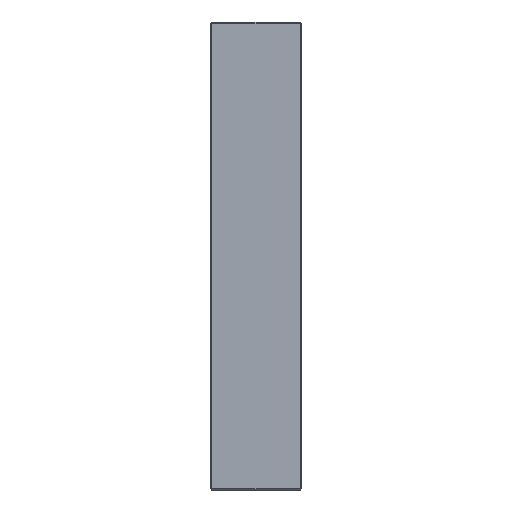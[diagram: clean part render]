
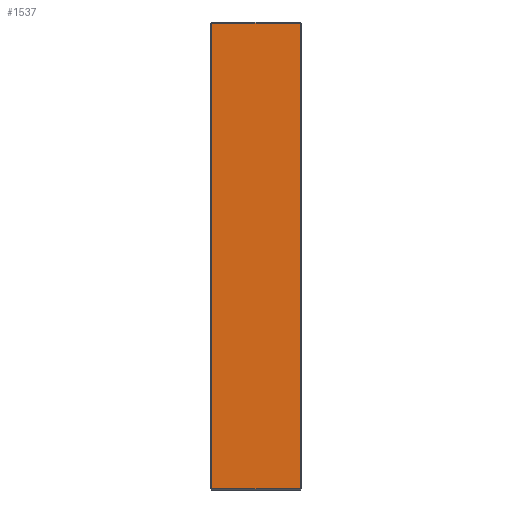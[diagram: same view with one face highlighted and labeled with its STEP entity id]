
A CAD part, left-side view. The second image highlights one B-rep face of the part: STEP entity #1537.
In plain terms, the highlighted planar face has unit normal (-1, 0, 0).
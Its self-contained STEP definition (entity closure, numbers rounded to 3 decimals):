
#184 = DIRECTION ( 'NONE',  ( 1., 0., 0. ) ) ;
#194 = DIRECTION ( 'NONE',  ( 0., 0., -1. ) ) ;
#234 = EDGE_CURVE ( 'NONE', #1140, #1425, #1684, .T. ) ;
#282 = CARTESIAN_POINT ( 'NONE',  ( -223., 1., -222. ) ) ;
#289 = LINE ( 'NONE', #1466, #765 ) ;
#337 = VERTEX_POINT ( 'NONE', #1960 ) ;
#395 = CARTESIAN_POINT ( 'NONE',  ( -223., 86., 223. ) ) ;
#445 = CARTESIAN_POINT ( 'NONE',  ( -223., 1., 223. ) ) ;
#547 = VECTOR ( 'NONE', #1643, 1000. ) ;
#667 = DIRECTION ( 'NONE',  ( 0., -1., 0. ) ) ;
#764 = CARTESIAN_POINT ( 'NONE',  ( -223., 86., 222. ) ) ;
#765 = VECTOR ( 'NONE', #667, 1000. ) ;
#775 = DIRECTION ( 'NONE',  ( 0., 1., 0. ) ) ;
#831 = ORIENTED_EDGE ( 'NONE', *, *, #2362, .T. ) ;
#1070 = LINE ( 'NONE', #445, #547 ) ;
#1140 = VERTEX_POINT ( 'NONE', #2612 ) ;
#1219 = FACE_OUTER_BOUND ( 'NONE', #2469, .T. ) ;
#1312 = VECTOR ( 'NONE', #2198, 1000. ) ;
#1356 = ORIENTED_EDGE ( 'NONE', *, *, #1580, .T. ) ;
#1425 = VERTEX_POINT ( 'NONE', #2104 ) ;
#1466 = CARTESIAN_POINT ( 'NONE',  ( -223., 86., -222. ) ) ;
#1537 = ADVANCED_FACE ( 'NONE', ( #1219 ), #1822, .F. ) ;
#1580 = EDGE_CURVE ( 'NONE', #1425, #337, #1863, .T. ) ;
#1626 = VECTOR ( 'NONE', #775, 1000. ) ;
#1643 = DIRECTION ( 'NONE',  ( 0., 0., 1. ) ) ;
#1684 = LINE ( 'NONE', #764, #1626 ) ;
#1822 = PLANE ( 'NONE',  #2304 ) ;
#1863 = LINE ( 'NONE', #2170, #1312 ) ;
#1874 = VERTEX_POINT ( 'NONE', #282 ) ;
#1897 = ORIENTED_EDGE ( 'NONE', *, *, #234, .T. ) ;
#1960 = CARTESIAN_POINT ( 'NONE',  ( -223., 85., -222. ) ) ;
#2104 = CARTESIAN_POINT ( 'NONE',  ( -223., 85., 222. ) ) ;
#2170 = CARTESIAN_POINT ( 'NONE',  ( -223., 85., 223. ) ) ;
#2198 = DIRECTION ( 'NONE',  ( 0., 0., -1. ) ) ;
#2224 = EDGE_CURVE ( 'NONE', #1874, #1140, #1070, .T. ) ;
#2304 = AXIS2_PLACEMENT_3D ( 'NONE', #395, #184, #194 ) ;
#2362 = EDGE_CURVE ( 'NONE', #337, #1874, #289, .T. ) ;
#2387 = ORIENTED_EDGE ( 'NONE', *, *, #2224, .T. ) ;
#2469 = EDGE_LOOP ( 'NONE', ( #1897, #1356, #831, #2387 ) ) ;
#2612 = CARTESIAN_POINT ( 'NONE',  ( -223., 1., 222. ) ) ;
